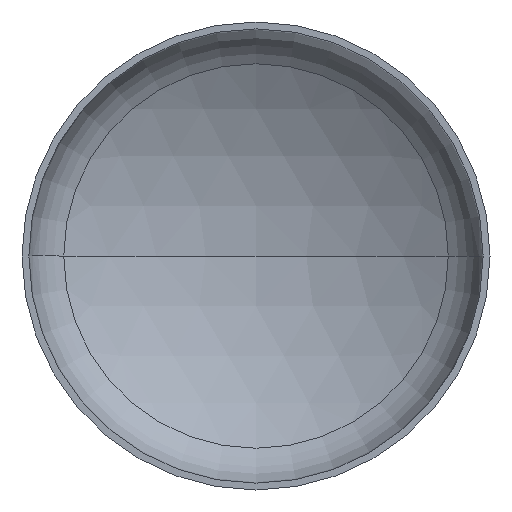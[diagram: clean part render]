
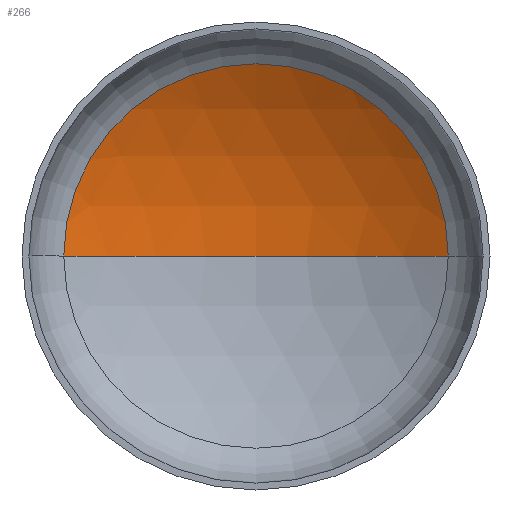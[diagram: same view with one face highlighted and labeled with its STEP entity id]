
A CAD part, front view. The second image highlights one B-rep face of the part: STEP entity #266.
In plain terms, the highlighted spherical face has radius 2560 mm.
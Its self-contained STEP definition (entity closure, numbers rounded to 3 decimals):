
#14 = AXIS2_PLACEMENT_3D ( 'NONE', #55, #149, #198 ) ;
#15 = AXIS2_PLACEMENT_3D ( 'NONE', #335, #166, #90 ) ;
#25 = EDGE_LOOP ( 'NONE', ( #87, #185, #80 ) ) ;
#29 = AXIS2_PLACEMENT_3D ( 'NONE', #213, #193, #161 ) ;
#55 = CARTESIAN_POINT ( 'NONE',  ( 0., -1626.213, 0. ) ) ;
#79 = VERTEX_POINT ( 'NONE', #375 ) ;
#80 = ORIENTED_EDGE ( 'NONE', *, *, #324, .T. ) ;
#87 = ORIENTED_EDGE ( 'NONE', *, *, #391, .F. ) ;
#90 = DIRECTION ( 'NONE',  ( 1., 0., 0. ) ) ;
#123 = FACE_OUTER_BOUND ( 'NONE', #25, .T. ) ;
#149 = DIRECTION ( 'NONE',  ( 0., 0., -1. ) ) ;
#161 = DIRECTION ( 'NONE',  ( -1., 0., 0. ) ) ;
#162 = VERTEX_POINT ( 'NONE', #174 ) ;
#166 = DIRECTION ( 'NONE',  ( 0., -1., 0. ) ) ;
#168 = CARTESIAN_POINT ( 'NONE',  ( 0., -1626.213, 0. ) ) ;
#174 = CARTESIAN_POINT ( 'NONE',  ( 1314.628, 570.456, 0. ) ) ;
#185 = ORIENTED_EDGE ( 'NONE', *, *, #330, .T. ) ;
#193 = DIRECTION ( 'NONE',  ( 0., 0., -1. ) ) ;
#198 = DIRECTION ( 'NONE',  ( -1., 0., 0. ) ) ;
#206 = DIRECTION ( 'NONE',  ( 1., 0., 0. ) ) ;
#211 = VERTEX_POINT ( 'NONE', #327 ) ;
#213 = CARTESIAN_POINT ( 'NONE',  ( 0., -1626.213, 0. ) ) ;
#264 = CIRCLE ( 'NONE', #14, 2560. ) ;
#266 = ADVANCED_FACE ( 'NONE', ( #123 ), #351, .F. ) ;
#301 = CIRCLE ( 'NONE', #365, 2560. ) ;
#324 = EDGE_CURVE ( 'NONE', #162, #211, #331, .T. ) ;
#327 = CARTESIAN_POINT ( 'NONE',  ( -1314.628, 570.456, 0. ) ) ;
#330 = EDGE_CURVE ( 'NONE', #79, #162, #264, .T. ) ;
#331 = CIRCLE ( 'NONE', #15, 1314.628 ) ;
#335 = CARTESIAN_POINT ( 'NONE',  ( 0., 570.456, 0. ) ) ;
#351 = SPHERICAL_SURFACE ( 'NONE', #29, 2560. ) ;
#361 = DIRECTION ( 'NONE',  ( 0., 0., 1. ) ) ;
#365 = AXIS2_PLACEMENT_3D ( 'NONE', #168, #361, #206 ) ;
#375 = CARTESIAN_POINT ( 'NONE',  ( 0., 933.787, 0. ) ) ;
#391 = EDGE_CURVE ( 'NONE', #79, #211, #301, .T. ) ;
